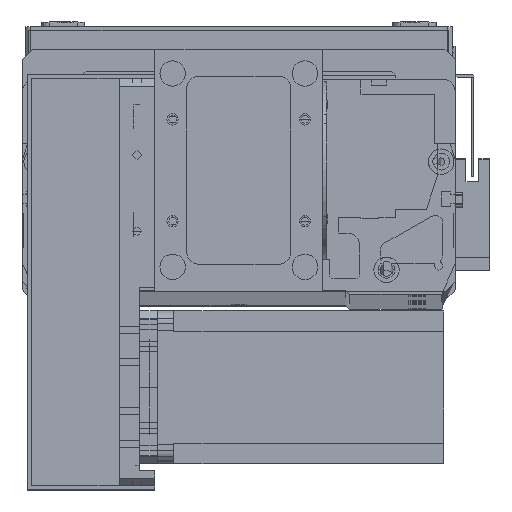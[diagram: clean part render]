
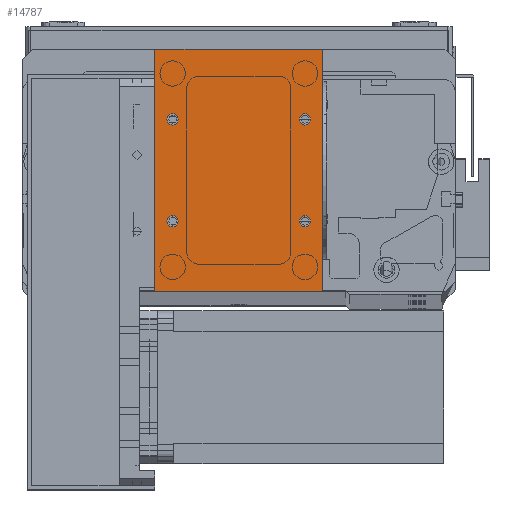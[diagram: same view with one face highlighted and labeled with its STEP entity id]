
A CAD part, top view. The second image highlights one B-rep face of the part: STEP entity #14787.
In plain terms, the highlighted planar face has unit normal (0, 0, 1).
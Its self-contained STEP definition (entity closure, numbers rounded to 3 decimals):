
#336 = CARTESIAN_POINT ( 'NONE',  ( 0., 0., 2. ) ) ;
#480 = CARTESIAN_POINT ( 'NONE',  ( 7., 27.5, 2. ) ) ;
#569 = EDGE_CURVE ( 'NONE', #4820, #19206, #34578, .T. ) ;
#657 = VERTEX_POINT ( 'NONE', #23954 ) ;
#801 = CIRCLE ( 'NONE', #6701, 2.25 ) ;
#1043 = AXIS2_PLACEMENT_3D ( 'NONE', #12673, #17178, #12632 ) ;
#1367 = DIRECTION ( 'NONE',  ( 1., 0., 0. ) ) ;
#1696 = VERTEX_POINT ( 'NONE', #28532 ) ;
#2026 = DIRECTION ( 'NONE',  ( 0., -1., 0. ) ) ;
#2118 = FACE_BOUND ( 'NONE', #21010, .T. ) ;
#2130 = DIRECTION ( 'NONE',  ( 1., 0., 0. ) ) ;
#2243 = CARTESIAN_POINT ( 'NONE',  ( 7., 67.5, 2. ) ) ;
#2251 = DIRECTION ( 'NONE',  ( 0., 0., 1. ) ) ;
#2741 = VERTEX_POINT ( 'NONE', #34513 ) ;
#3102 = EDGE_CURVE ( 'NONE', #34730, #14269, #33435, .T. ) ;
#3147 = ORIENTED_EDGE ( 'NONE', *, *, #34713, .F. ) ;
#3243 = DIRECTION ( 'NONE',  ( 1., 0., 0. ) ) ;
#3402 = VECTOR ( 'NONE', #2026, 1000. ) ;
#4031 = EDGE_CURVE ( 'NONE', #31630, #27912, #11842, .T. ) ;
#4559 = DIRECTION ( 'NONE',  ( -1., 0., 0. ) ) ;
#4820 = VERTEX_POINT ( 'NONE', #19817 ) ;
#4851 = CARTESIAN_POINT ( 'NONE',  ( 59., 67.5, 2. ) ) ;
#6103 = DIRECTION ( 'NONE',  ( 0., 1., 0. ) ) ;
#6701 = AXIS2_PLACEMENT_3D ( 'NONE', #480, #19607, #3243 ) ;
#7302 = CARTESIAN_POINT ( 'NONE',  ( 0., 95., 2. ) ) ;
#7423 = PLANE ( 'NONE',  #28640 ) ;
#7579 = DIRECTION ( 'NONE',  ( 1., 0., 0. ) ) ;
#8553 = FACE_OUTER_BOUND ( 'NONE', #14118, .T. ) ;
#9088 = ORIENTED_EDGE ( 'NONE', *, *, #17278, .F. ) ;
#9265 = EDGE_CURVE ( 'NONE', #657, #2741, #19565, .T. ) ;
#9397 = FACE_BOUND ( 'NONE', #17480, .T. ) ;
#10130 = CARTESIAN_POINT ( 'NONE',  ( 0., 0., 2. ) ) ;
#10301 = ORIENTED_EDGE ( 'NONE', *, *, #31531, .F. ) ;
#10400 = ORIENTED_EDGE ( 'NONE', *, *, #14198, .T. ) ;
#10478 = VECTOR ( 'NONE', #6103, 1000. ) ;
#10607 = ORIENTED_EDGE ( 'NONE', *, *, #28607, .F. ) ;
#10643 = LINE ( 'NONE', #21231, #3402 ) ;
#10994 = EDGE_LOOP ( 'NONE', ( #20969, #10607 ) ) ;
#11450 = DIRECTION ( 'NONE',  ( 1., 0., 0. ) ) ;
#11842 = CIRCLE ( 'NONE', #27676, 2.25 ) ;
#12632 = DIRECTION ( 'NONE',  ( 1., 0., 0. ) ) ;
#12639 = DIRECTION ( 'NONE',  ( 0., 0., -1. ) ) ;
#12673 = CARTESIAN_POINT ( 'NONE',  ( 59., 67.5, 2. ) ) ;
#12866 = DIRECTION ( 'NONE',  ( -1., 0., 0. ) ) ;
#12880 = ORIENTED_EDGE ( 'NONE', *, *, #24269, .T. ) ;
#13238 = DIRECTION ( 'NONE',  ( 0., 0., 1. ) ) ;
#13266 = ORIENTED_EDGE ( 'NONE', *, *, #3102, .F. ) ;
#13325 = CARTESIAN_POINT ( 'NONE',  ( 9.25, 67.5, 2. ) ) ;
#13359 = CARTESIAN_POINT ( 'NONE',  ( 7., 27.5, 2. ) ) ;
#14118 = EDGE_LOOP ( 'NONE', ( #10400, #23505, #12880, #33022 ) ) ;
#14198 = EDGE_CURVE ( 'NONE', #16435, #29255, #10643, .T. ) ;
#14269 = VERTEX_POINT ( 'NONE', #32166 ) ;
#14787 = ADVANCED_FACE ( 'NONE', ( #9397, #30199, #2118, #23137, #8553 ), #7423, .F. ) ;
#15119 = CARTESIAN_POINT ( 'NONE',  ( 59., 27.5, 2. ) ) ;
#16075 = LINE ( 'NONE', #336, #29673 ) ;
#16435 = VERTEX_POINT ( 'NONE', #16838 ) ;
#16838 = CARTESIAN_POINT ( 'NONE',  ( 0., 95., 2. ) ) ;
#17178 = DIRECTION ( 'NONE',  ( 0., 0., 1. ) ) ;
#17278 = EDGE_CURVE ( 'NONE', #14269, #34730, #24596, .T. ) ;
#17480 = EDGE_LOOP ( 'NONE', ( #10301, #28283 ) ) ;
#17735 = DIRECTION ( 'NONE',  ( 0., 0., 1. ) ) ;
#17852 = DIRECTION ( 'NONE',  ( 1., 0., 0. ) ) ;
#18617 = LINE ( 'NONE', #22582, #10478 ) ;
#19206 = VERTEX_POINT ( 'NONE', #19537 ) ;
#19311 = AXIS2_PLACEMENT_3D ( 'NONE', #33784, #17735, #1367 ) ;
#19537 = CARTESIAN_POINT ( 'NONE',  ( 56.75, 67.5, 2. ) ) ;
#19565 = CIRCLE ( 'NONE', #33028, 2.25 ) ;
#19607 = DIRECTION ( 'NONE',  ( 0., 0., 1. ) ) ;
#19817 = CARTESIAN_POINT ( 'NONE',  ( 61.25, 67.5, 2. ) ) ;
#20016 = EDGE_LOOP ( 'NONE', ( #34552, #3147 ) ) ;
#20969 = ORIENTED_EDGE ( 'NONE', *, *, #9265, .F. ) ;
#21010 = EDGE_LOOP ( 'NONE', ( #13266, #9088 ) ) ;
#21231 = CARTESIAN_POINT ( 'NONE',  ( 0., 0., 2. ) ) ;
#21376 = DIRECTION ( 'NONE',  ( 1., 0., 0. ) ) ;
#21420 = DIRECTION ( 'NONE',  ( 0., 0., 1. ) ) ;
#21457 = CARTESIAN_POINT ( 'NONE',  ( 59., 27.5, 2. ) ) ;
#21932 = EDGE_CURVE ( 'NONE', #1696, #16435, #24735, .T. ) ;
#22466 = VERTEX_POINT ( 'NONE', #22964 ) ;
#22582 = CARTESIAN_POINT ( 'NONE',  ( 66., 0., 2. ) ) ;
#22964 = CARTESIAN_POINT ( 'NONE',  ( 66., 0., 2. ) ) ;
#23137 = FACE_BOUND ( 'NONE', #10994, .T. ) ;
#23162 = CIRCLE ( 'NONE', #19311, 2.25 ) ;
#23379 = EDGE_CURVE ( 'NONE', #29255, #22466, #16075, .T. ) ;
#23505 = ORIENTED_EDGE ( 'NONE', *, *, #23379, .T. ) ;
#23954 = CARTESIAN_POINT ( 'NONE',  ( 9.25, 27.5, 2. ) ) ;
#24001 = DIRECTION ( 'NONE',  ( 0., 0., 1. ) ) ;
#24269 = EDGE_CURVE ( 'NONE', #22466, #1696, #18617, .T. ) ;
#24596 = CIRCLE ( 'NONE', #33064, 2.25 ) ;
#24735 = LINE ( 'NONE', #7302, #30902 ) ;
#24930 = DIRECTION ( 'NONE',  ( 1., 0., 0. ) ) ;
#25172 = AXIS2_PLACEMENT_3D ( 'NONE', #4851, #24001, #7579 ) ;
#25241 = CARTESIAN_POINT ( 'NONE',  ( 0., 0., 2. ) ) ;
#26284 = CARTESIAN_POINT ( 'NONE',  ( 4.75, 67.5, 2. ) ) ;
#27676 = AXIS2_PLACEMENT_3D ( 'NONE', #2243, #2251, #2130 ) ;
#27912 = VERTEX_POINT ( 'NONE', #13325 ) ;
#28283 = ORIENTED_EDGE ( 'NONE', *, *, #4031, .F. ) ;
#28446 = CIRCLE ( 'NONE', #25172, 2.25 ) ;
#28532 = CARTESIAN_POINT ( 'NONE',  ( 66., 95., 2. ) ) ;
#28607 = EDGE_CURVE ( 'NONE', #2741, #657, #801, .T. ) ;
#28640 = AXIS2_PLACEMENT_3D ( 'NONE', #10130, #12639, #12866 ) ;
#29226 = CARTESIAN_POINT ( 'NONE',  ( 61.25, 27.5, 2. ) ) ;
#29255 = VERTEX_POINT ( 'NONE', #25241 ) ;
#29638 = AXIS2_PLACEMENT_3D ( 'NONE', #21457, #21420, #21376 ) ;
#29673 = VECTOR ( 'NONE', #24930, 1000. ) ;
#30199 = FACE_BOUND ( 'NONE', #20016, .T. ) ;
#30902 = VECTOR ( 'NONE', #4559, 1000. ) ;
#31531 = EDGE_CURVE ( 'NONE', #27912, #31630, #23162, .T. ) ;
#31630 = VERTEX_POINT ( 'NONE', #26284 ) ;
#32166 = CARTESIAN_POINT ( 'NONE',  ( 56.75, 27.5, 2. ) ) ;
#33022 = ORIENTED_EDGE ( 'NONE', *, *, #21932, .T. ) ;
#33028 = AXIS2_PLACEMENT_3D ( 'NONE', #13359, #13238, #11450 ) ;
#33064 = AXIS2_PLACEMENT_3D ( 'NONE', #15119, #33925, #17852 ) ;
#33435 = CIRCLE ( 'NONE', #29638, 2.25 ) ;
#33784 = CARTESIAN_POINT ( 'NONE',  ( 7., 67.5, 2. ) ) ;
#33925 = DIRECTION ( 'NONE',  ( 0., 0., 1. ) ) ;
#34513 = CARTESIAN_POINT ( 'NONE',  ( 4.75, 27.5, 2. ) ) ;
#34552 = ORIENTED_EDGE ( 'NONE', *, *, #569, .F. ) ;
#34578 = CIRCLE ( 'NONE', #1043, 2.25 ) ;
#34713 = EDGE_CURVE ( 'NONE', #19206, #4820, #28446, .T. ) ;
#34730 = VERTEX_POINT ( 'NONE', #29226 ) ;
